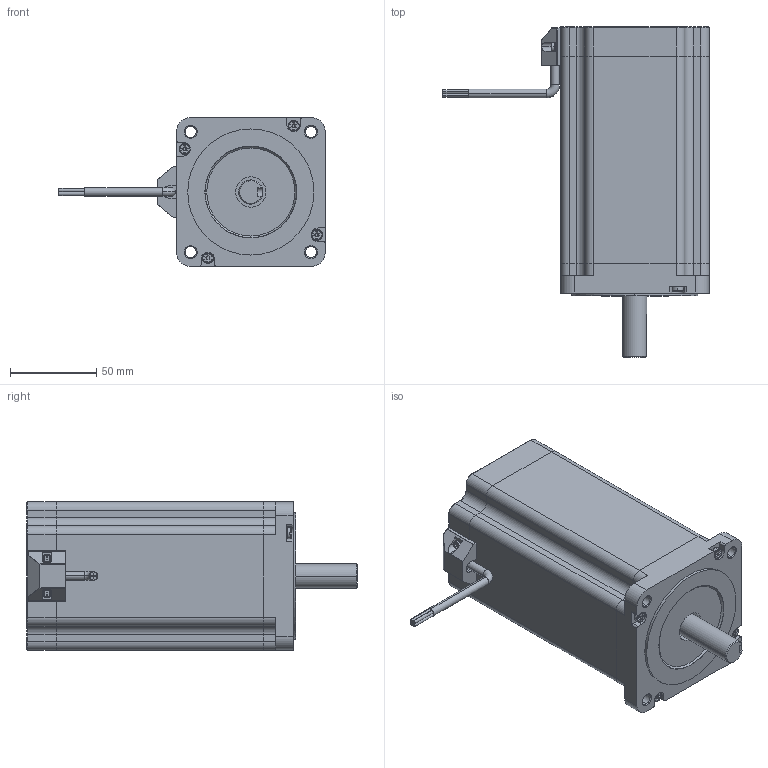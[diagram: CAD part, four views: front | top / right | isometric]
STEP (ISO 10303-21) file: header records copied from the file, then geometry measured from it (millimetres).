
FILE_DESCRIPTION (( 'STEP AP214' ), '1' );
FILE_NAME ('86BYGH2160-6004A.STEP', '2018-12-17T02:31:56', ( 'Windows' ), ( 'Microsoft' ), 'SwSTEP 2.0', 'SolidWorks 2015', '' );
FILE_SCHEMA (( 'AUTOMOTIVE_DESIGN' ));
Length unit declared in the file: millimetre
Products named in the file (8): 86BYGH2160-6004A; M3x8; M4x54; 86揤盄裔; 86H2160A37瑩羞; 86綴傷裔; 86ヶ傷裔; 86隅赽120
Assembly tree (11 placements, depth 2):
  86BYGH2160-6004A
    86隅赽120
    86ヶ傷裔
    86綴傷裔
    86H2160A37瑩羞
    86揤盄裔
    M4x54  x4
    M3x8  x2
Bounding box: 154.09 x 191 x 86 mm (x, y, z)
Volume: 1044531.3 mm3; surface area: 116319.2 mm2
Topology: 15 solids, 15 shells, 470 faces, 1198 edges, 765 vertices
Faces by surface type: cylinder 199, plane 196, torus 52, cone 17, bspline 4, sphere 2
Entity records: 13090 total; most frequent: CARTESIAN_POINT 1976, DIRECTION 1950, ORIENTED_EDGE 1754, EDGE_CURVE 877, AXIS2_PLACEMENT_3D 746, VERTEX_POINT 562, VECTOR 458, LINE 458
